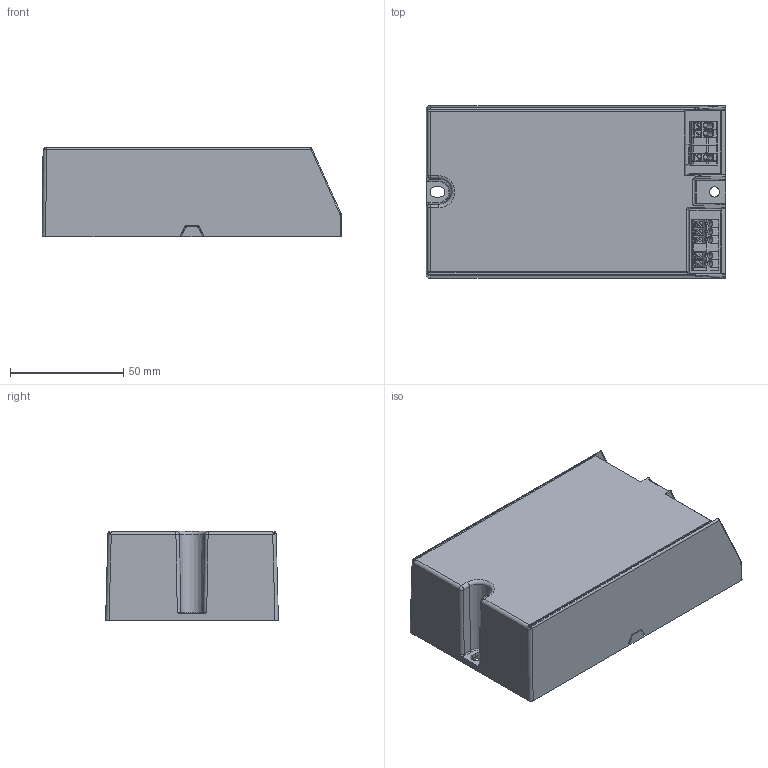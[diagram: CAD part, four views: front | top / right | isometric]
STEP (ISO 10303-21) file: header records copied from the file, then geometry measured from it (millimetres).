
FILE_DESCRIPTION(/* description */ (''),/* implementation_level */ '2;1');
FILE_NAME(/* name */ 'SH_10 D4i 110W C133.stp',/* time_stamp */ '2025-04-25T13:17:29+08:00',/* author */ ('621233586'),/* organization */ (''),/* preprocessor_version */ 'ST-DEVELOPER v19.2',/* originating_system */ 'Autodesk Inventor 2023',/* authorisation */ '');
FILE_SCHEMA (('CONFIG_CONTROL_DESIGN'));
Products named in the file (33): Product Assy_20240314; S133 bottom_2holes; S133 housing_2holes; 442296319505; DesignRootModel; Submodel-PartNo_part_simplified_barcode_057x057_silk_cl5_1; Submodel-Q:LED_Drivers_New0043926 D4i 110WMBMB_D4I 110W 20241118BLayo
ut3DInput_SBARCODE_3D_057x057_V1_19-01-2013_0.05.xtd; BARCODE_3D_057x057_V1_19-01-2013_0.05; Submodel-442294495731_part_simplified_ind_sllf201210_b_1; Submodel-Q:LED_Drivers_New0043926 D4i 110WMBMB_D4I 110W 20241118BLayo
ut3DInput_SERRITE-BEAD_SMD_0805_19-03-12_1.05.xtd; FERRITE-BEAD_SMD_0805_19-03-12_1.05; Submodel-442240998181_part_simplified_con_wago250_fr_03p-k_m_2; Submodel-Q:LED_Drivers_New0043926 D4i 110WMBMB_D4I 110W 20241118BLayo
ut3DInput_SCONNECTOR_ODD_WAGO250-3P-SPACER_NOP3-4_14-11-17_13.3.xtd; CONNECTOR_ODD_WAGO250-3P-SPACER_NOP3-4_14-11-17_13.3; Submodel-228800140991_part_simplified_con_wago250_fr_05p-h_m_1; Submodel-Q:LED_Drivers_New0043926 D4i 110WMBMB_D4I 110W 20241118BLayo
ut3DInput_SCONNECTOR_ODD_WAGO250-5P_V2_04-03-24_13.3.xtd; CONNECTOR_ODD_WAGO250-5P_V2_04-03-24_13.3; Submodel-func_dia020_wav_part_simplified_tld_func_dia020_sr_b_1; Submodel-Q:LED_Drivers_New0043926 D4i 110WMBMB_D4I 110W 20241118BLayo
ut3DInput_STESTPOINT_2MM_13-06-16_0.035.xtd; TESTPOINT_2MM_13-06-16_0.035; Submodel-icct_dia010_wav_part_simplified_tld_icct_dia010_sr_b_1; Submodel-Q:LED_Drivers_New0043926 D4i 110WMBMB_D4I 110W 20241118BLayo
ut3DInput_STESTPOINT_1MM_24-02-12_0.035.xtd; TESTPOINT_1MM_24-02-12_0.035; uid__8301066; Submodel-PartNo_2453677399_part_fid_comp_d10_x_cl3_1; Submodel-noModelForPart_PartNo_2453677399; placementOutline; Submodel-PartNo_1251006236_part_fid_comp_d10_x_cl3_1; Submodel-noModelForPart_PartNo_1251006236; placementOutline_1; Submodel-442240963041_193112913_part_pcb-fuse_single_0.2x5.5_x_1; Submodel-noModelForPart_442240963041_193112913; placementOutline_2
Assembly tree (126 placements, depth 6):
  Product Assy_20240314
    S133 bottom_2holes
    S133 housing_2holes
    442296319505
      DesignRootModel
        Submodel-func_dia020_wav_part_simplified_tld_func_dia020_sr_b_1  x24
          Submodel-Q:LED_Drivers_New0043926 D4i 110WMBMB_D4I 110W 20241118BLayo
ut3DInput_STESTPOINT_2MM_13-06-16_0.035.xtd
            TESTPOINT_2MM_13-06-16_0.035
        Submodel-icct_dia010_wav_part_simplified_tld_icct_dia010_sr_b_1  x69
          Submodel-Q:LED_Drivers_New0043926 D4i 110WMBMB_D4I 110W 20241118BLayo
ut3DInput_STESTPOINT_1MM_24-02-12_0.035.xtd
            TESTPOINT_1MM_24-02-12_0.035
        Submodel-PartNo_part_simplified_barcode_057x057_silk_cl5_1
          Submodel-Q:LED_Drivers_New0043926 D4i 110WMBMB_D4I 110W 20241118BLayo
ut3DInput_SBARCODE_3D_057x057_V1_19-01-2013_0.05.xtd
            BARCODE_3D_057x057_V1_19-01-2013_0.05
        Submodel-442294495731_part_simplified_ind_sllf201210_b_1  x2
          Submodel-Q:LED_Drivers_New0043926 D4i 110WMBMB_D4I 110W 20241118BLayo
ut3DInput_SERRITE-BEAD_SMD_0805_19-03-12_1.05.xtd
            FERRITE-BEAD_SMD_0805_19-03-12_1.05
        Submodel-442240998181_part_simplified_con_wago250_fr_03p-k_m_2
          Submodel-Q:LED_Drivers_New0043926 D4i 110WMBMB_D4I 110W 20241118BLayo
ut3DInput_SCONNECTOR_ODD_WAGO250-3P-SPACER_NOP3-4_14-11-17_13.3.xtd
            CONNECTOR_ODD_WAGO250-3P-SPACER_NOP3-4_14-11-17_13.3
        Submodel-228800140991_part_simplified_con_wago250_fr_05p-h_m_1
          Submodel-Q:LED_Drivers_New0043926 D4i 110WMBMB_D4I 110W 20241118BLayo
ut3DInput_SCONNECTOR_ODD_WAGO250-5P_V2_04-03-24_13.3.xtd
            CONNECTOR_ODD_WAGO250-5P_V2_04-03-24_13.3
        uid__8301066
        Submodel-PartNo_2453677399_part_fid_comp_d10_x_cl3_1  x2
          Submodel-noModelForPart_PartNo_2453677399
            placementOutline
        Submodel-PartNo_1251006236_part_fid_comp_d10_x_cl3_1  x2
          Submodel-noModelForPart_PartNo_1251006236
            placementOutline_1
        Submodel-442240963041_193112913_part_pcb-fuse_single_0.2x5.5_x_1
          Submodel-noModelForPart_442240963041_193112913
            placementOutline_2
Bounding box: 132.4 x 76.49 x 39.5 mm (x, y, z)
Volume: 77031.4 mm3; surface area: 100542.8 mm2
Topology: 139 solids, 160 shells, 3348 faces, 8534 edges, 5569 vertices
Faces by surface type: plane 2086, cylinder 836, bspline 319, cone 48, torus 30, sphere 29
Full cylindrical faces by diameter (mm): 0.45 x91, 0.9 x12, 1 x96, 1.1 x16, 1.2 x35, 1.3 x10, 1.4 x9, 1.5 x9, 2 x24, 3 x7, 5.7 x2, 6 x3, 8 x2
Entity records: 102170 total; most frequent: CARTESIAN_POINT 23619, ORIENTED_EDGE 16344, DIRECTION 14983, EDGE_CURVE 8172, LINE 5889, VECTOR 5889, VERTEX_POINT 5359, AXIS2_PLACEMENT_3D 4547
